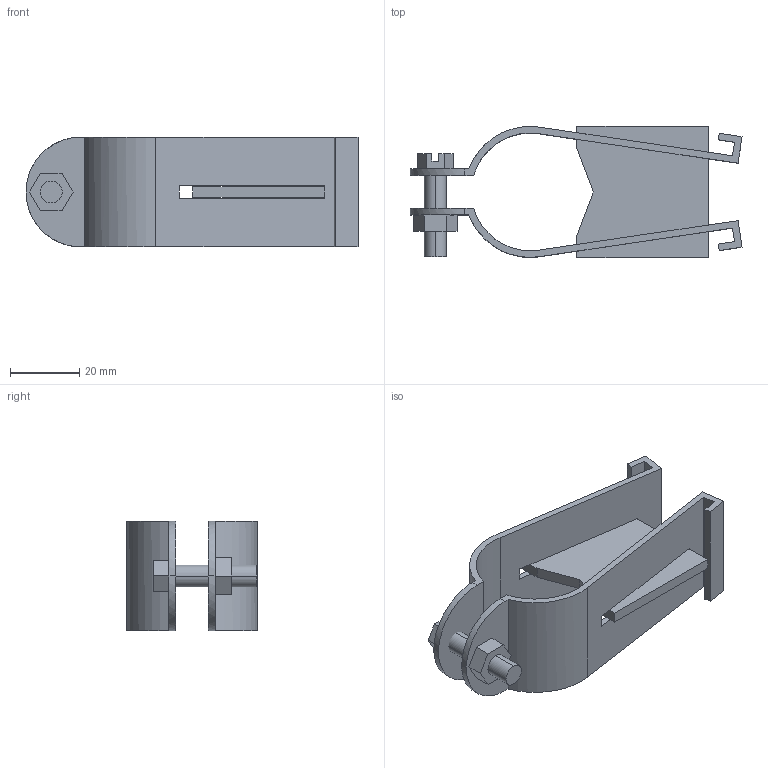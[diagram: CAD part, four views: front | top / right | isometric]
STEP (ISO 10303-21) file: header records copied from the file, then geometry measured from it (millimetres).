
FILE_DESCRIPTION(('TurboCAD Mac Pro'),'Build 980');
FILE_NAME('P1566.stp',' ',(''),(''),'ACIS Interop','IMSI','TurboCAD Mac Pro BY IMSI, INCORPORATED');
FILE_SCHEMA(('automotive_design'));
Length unit declared in the file: inch
Products named in the file (6): 1; 2; 3; 4; 5; 6
Bounding box: 96.1 x 38.1 x 31.74 mm (x, y, z)
Volume: 18344.1 mm3; surface area: 19111.7 mm2
Topology: 6 solids, 6 shells, 77 faces, 195 edges, 130 vertices
Faces by surface type: plane 61, bspline 16
Entity records: 3132 total; most frequent: CARTESIAN_POINT 616, ORIENTED_EDGE 390, DIRECTION 297, EDGE_CURVE 195, LINE 163, VECTOR 163, VERTEX_POINT 130, STYLED_ITEM 83
